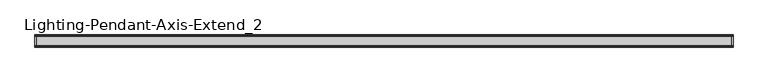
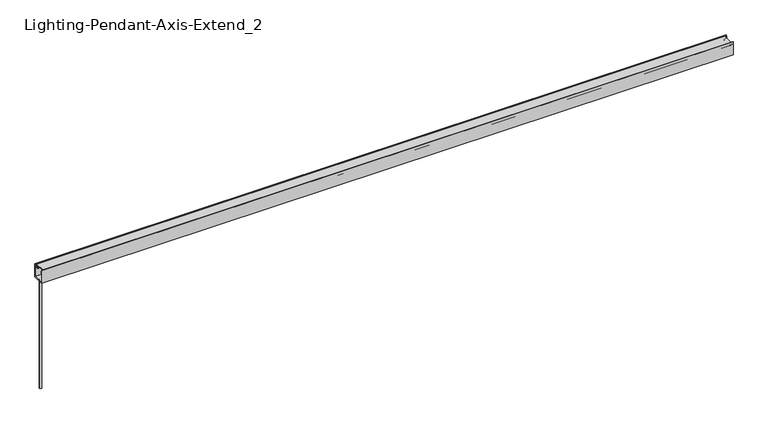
"""IFC4 building model written with IfcOpenShell, lengths in millimetres: light fixture geometry, Lighting-Pendant-Axis-Extend_2 : EX2PD-900-80-35-SO-4."""

from ifc_helpers import new_model, si_unit, point, frame, frame_2d, origin, place, context, project, spatial, polyline, circle_curve, trimmed, segment, composite_curve, outline, extrude, source, transform, mapped, element, save
from ifc_brep_helpers import plane_surface, cylinder_surface, advanced_brep


def lighting_pendant_axis_extend_2_5fcf18b4(model_context):
    return source(origin(), model_context, "Body", "SolidModel", [
        advanced_brep(
        [(-1820.672, 0.0, 609.6), (-1833.372, 0.0, 609.6), (-1827.022, 0.0, 609.6), (-1820.672, 0.0, 0.0), (-1833.372, 0.0, 0.0), (-1827.022, 0.0, 0.0)],
        [
            (0, 1, circle_curve(frame((-1827.022, 0.0, 609.6), z_axis=(0.0, 0.0, 1.0), x_axis=(-1.0, 0.0, 0.0)), 6.35)),
            (1, 2),
            (2, 0),
            (1, 0, circle_curve(frame((-1827.022, 0.0, 609.6), z_axis=(0.0, 0.0, 1.0), x_axis=(-1.0, 0.0, 0.0)), 6.35)),
            (3, 4, circle_curve(frame((-1827.022, 0.0, 0.0), z_axis=(0.0, 0.0, 1.0), x_axis=(-1.0, 0.0, 0.0)), 6.35)),
            (4, 1),
            (0, 3),
            (4, 3, circle_curve(frame((-1827.022, 0.0, 0.0), z_axis=(0.0, 0.0, 1.0), x_axis=(-1.0, 0.0, 0.0)), 6.35)),
            (5, 4),
            (3, 5),
        ],
        [
            plane_surface(frame((-1827.022, 0.0, 609.6), z_axis=(0.0, 0.0, 1.0), x_axis=(-1.0, 0.0, 0.0))),
            cylinder_surface(frame((-1827.022, 0.0, 2913.8581012), z_axis=(0.0, 0.0, -1.0), x_axis=(-1.0, 0.0, 0.0)), 6.35),
            plane_surface(frame((-1827.022, 0.0, 0.0), z_axis=(0.0, 0.0, -1.0), x_axis=(-1.0, 0.0, 0.0))),
        ],
        [
            (0, [[1, 2, 3]]),
            (0, [[4, -3, -2]]),
            (1, [[5, 6, -1, 7]]),
            (1, [[8, -7, -4, -6]]),
            (2, [[9, -5, 10]]),
            (2, [[-10, -8, -9]]),
        ],
    ),
        extrude(outline(composite_curve([segment(polyline([(-24.1727262, 676.1479991), (-24.5114181, 669.6853737)]), True, "CONTINUOUS"), segment(trimmed(circle_curve(frame_2d((-27.2542, 666.6865)), 4.064), [point((-24.5114181, 669.6853737))], [point((-25.3818814, 663.0794903))], False, "CARTESIAN"), True, "CONTINUOUS"), segment(trimmed(circle_curve(frame_2d((-22.149344, 663.8683457)), 3.3274001), [point((-25.3818814, 663.0794903))], [point((-24.5665956, 661.5817575))], True, "CARTESIAN"), True, "CONTINUOUS"), segment(trimmed(circle_curve(frame_2d((-17.1303177, 668.6160708)), 10.2362001), [point((-24.5665956, 661.5817575))], [point((-23.2119066, 660.3823555))], True, "CARTESIAN"), True, "CONTINUOUS"), segment(trimmed(circle_curve(frame_2d((-23.7023573, 659.7183462)), 0.8255), [point((-23.2119066, 660.3823555))], [point((-24.192808, 659.0543369))], False, "CARTESIAN"), True, "CONTINUOUS"), segment(trimmed(circle_curve(frame_2d((-17.1303169, 668.6160717)), 11.8872013), [point((-24.192808, 659.0543369))], [point((-25.7659952, 660.4471908))], False, "CARTESIAN"), True, "CONTINUOUS"), segment(trimmed(circle_curve(frame_2d((-22.149344, 663.8683457)), 4.9784001), [point((-25.7659952, 660.4471908))], [point((-27.1108807, 664.27776))], False, "CARTESIAN"), True, "CONTINUOUS"), segment(trimmed(circle_curve(frame_2d((-27.2542, 666.6865)), 2.413), [point((-27.1108807, 664.27776))], [point((-25.4753941, 668.3169658))], True, "CARTESIAN"), True, "CONTINUOUS"), segment(trimmed(circle_curve(frame_2d((-23.6029669, 670.0332456)), 2.54), [point((-25.4753941, 668.3169658))], [point((-26.1394859, 670.1661789))], False, "CARTESIAN"), True, "CONTINUOUS"), segment(polyline([(-26.1394859, 670.1661789), (-25.825992, 676.1479991), (-28.829, 676.1479991), (-28.829, 678.053), (28.829, 678.053), (28.829, 676.1479991), (25.825992, 676.1479991), (26.1394859, 670.1661789)]), True, "CONTINUOUS"), segment(trimmed(circle_curve(frame_2d((23.6029669, 670.0332456)), 2.54), [point((26.1394859, 670.1661789))], [point((25.4753941, 668.3169658))], False, "CARTESIAN"), True, "CONTINUOUS"), segment(trimmed(circle_curve(frame_2d((27.2542, 666.6865)), 2.413), [point((25.4753941, 668.3169658))], [point((27.1108807, 664.27776))], True, "CARTESIAN"), True, "CONTINUOUS"), segment(trimmed(circle_curve(frame_2d((22.149344, 663.8683457)), 4.9784001), [point((27.1108807, 664.27776))], [point((25.7659952, 660.4471908))], False, "CARTESIAN"), True, "CONTINUOUS"), segment(trimmed(circle_curve(frame_2d((17.1303169, 668.6160717)), 11.8872013), [point((25.7659952, 660.4471908))], [point((24.192808, 659.0543369))], False, "CARTESIAN"), True, "CONTINUOUS"), segment(trimmed(circle_curve(frame_2d((23.7023573, 659.7183462)), 0.8255), [point((24.192808, 659.0543369))], [point((23.2119066, 660.3823555))], False, "CARTESIAN"), True, "CONTINUOUS"), segment(trimmed(circle_curve(frame_2d((17.1303177, 668.6160708)), 10.2362001), [point((23.2119066, 660.3823555))], [point((24.5665956, 661.5817575))], True, "CARTESIAN"), True, "CONTINUOUS"), segment(trimmed(circle_curve(frame_2d((22.149344, 663.8683457)), 3.3274001), [point((24.5665956, 661.5817575))], [point((25.3818814, 663.0794903))], True, "CARTESIAN"), True, "CONTINUOUS"), segment(trimmed(circle_curve(frame_2d((27.2542, 666.6865)), 4.064), [point((25.3818814, 663.0794903))], [point((24.5114181, 669.6853737))], False, "CARTESIAN"), True, "CONTINUOUS"), segment(polyline([(24.5114181, 669.6853737), (24.1727262, 676.1479991), (-24.1727262, 676.1479991)]), True, "CONTINUOUS")], self_intersect=False)), frame((-1828.8, 0.0, 0.0), z_axis=(1.0, 0.0, 0.0), x_axis=(0.0, 1.0, 0.0)), (0.0, 0.0, 1.0), 3657.6),
        extrude(outline(composite_curve([segment(polyline([(-29.972, 666.1277), (-29.972, 611.632), (29.972, 611.632), (29.972, 666.1277), (28.1325797, 666.1277)]), True, "CONTINUOUS"), segment(trimmed(circle_curve(frame_2d((26.6262297, 666.1277)), 1.5063501), [point((28.1325797, 666.1277))], [point((25.8730546, 664.8231626))], False, "CARTESIAN"), True, "CONTINUOUS"), segment(trimmed(circle_curve(frame_2d((27.0642121, 666.8863079)), 2.382315), [point((25.8730546, 664.8231626))], [point((24.6896516, 667.0783682))], False, "CARTESIAN"), True, "CONTINUOUS"), segment(polyline([(24.6896516, 667.0783682), (28.067, 669.9123), (28.067, 668.1597), (29.972, 668.1597), (29.972, 674.6875), (28.067, 674.6875), (28.067, 673.1635), (26.416, 673.2500252), (26.416, 675.9575), (29.972, 675.9575), (29.972, 681.0375), (32.004, 681.0375), (32.004, 609.6), (-32.004, 609.6), (-32.004, 681.0375), (-29.972, 681.0375), (-29.972, 675.9575), (-26.416, 675.9575), (-26.416, 673.2500252), (-28.067, 673.1635), (-28.067, 674.6875), (-29.972, 674.6875), (-29.972, 668.1597), (-28.067, 668.1597), (-28.067, 669.9123), (-24.6896516, 667.0783682)]), True, "CONTINUOUS"), segment(trimmed(circle_curve(frame_2d((-27.0642121, 666.8863079)), 2.382315), [point((-24.6896516, 667.0783682))], [point((-25.8730546, 664.8231626))], False, "CARTESIAN"), True, "CONTINUOUS"), segment(trimmed(circle_curve(frame_2d((-26.6262297, 666.1277)), 1.5063501), [point((-25.8730546, 664.8231626))], [point((-28.1325797, 666.1277))], False, "CARTESIAN"), True, "CONTINUOUS"), segment(polyline([(-28.1325797, 666.1277), (-29.972, 666.1277)]), True, "CONTINUOUS")], self_intersect=False)), frame((-1837.9567, 0.0, 0.0), z_axis=(1.0, 0.0, 0.0), x_axis=(0.0, 1.0, 0.0)), (0.0, 0.0, 1.0), 3675.9134),
    ])


if __name__ == "__main__":
    model = new_model("IFC4")
    model_context = context("Model", 3, world=origin())
    ifc_project = project(units=[si_unit("LENGTHUNIT", "METRE", prefix="MILLI")], contexts=[model_context])
    site = spatial("IfcSite", under=ifc_project)
    building = spatial("IfcBuilding", under=site)
    placement = place(None, origin())
    lighting_pendant_axis_extend_2_shape = lighting_pendant_axis_extend_2_5fcf18b4(model_context)
    element("IfcLightFixture", 1, ObjectType="Lighting-Pendant-Axis-Extend_2 : EX2PD-900-80-35-SO-4", at=placement, inside=building, context=model_context, shape_type="MappedRepresentation", body=[
        mapped(lighting_pendant_axis_extend_2_shape, transform((0.0, 0.0, 0.0), x_axis=(1.0, 0.0, 0.0), y_axis=(0.0, 1.0, 0.0), z_axis=(0.0, 0.0, 1.0))),
    ])
    save(model, "model.ifc")
